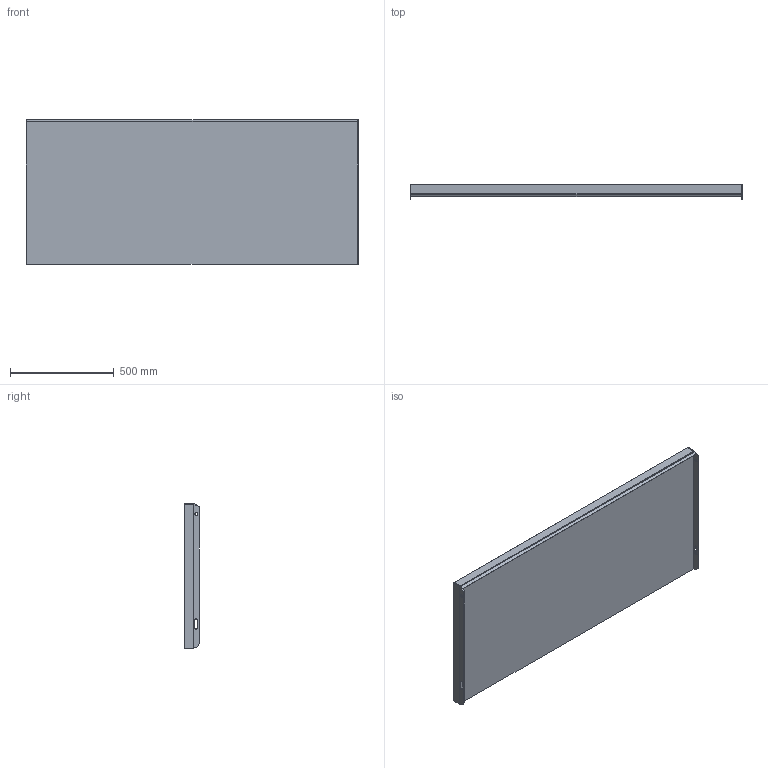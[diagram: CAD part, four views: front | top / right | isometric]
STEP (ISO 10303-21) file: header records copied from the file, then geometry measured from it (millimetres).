
FILE_DESCRIPTION (( 'STEP AP203' ), '1' );
FILE_NAME ('148816071, Plan TH6, 1600x700, vfz.STEP', '2020-10-21T13:25:12', ( '' ), ( '' ), 'SwSTEP 2.0', 'SolidWorks 2019', '' );
FILE_SCHEMA (( 'CONFIG_CONTROL_DESIGN' ));
Length unit declared in the file: millimetre
Products named in the file (4): 148816071, Plan TH6, 1600x700, vfz; SW0000041813; SW0000041386; SW0000041758
Assembly tree (4 placements, depth 2):
  148816071, Plan TH6, 1600x700, vfz
    SW0000041813
    SW0000041386  x2
    SW0000041758
Bounding box: 1600 x 70 x 697 mm (x, y, z)
Volume: 44822220.4 mm3; surface area: 2797456.2 mm2
Topology: 4 solids, 4 shells, 59 faces, 142 edges, 92 vertices
Faces by surface type: plane 45, cylinder 14
Entity records: 1693 total; most frequent: DIRECTION 221, CARTESIAN_POINT 220, ORIENTED_EDGE 206, EDGE_CURVE 103, VECTOR 87, LINE 87, AXIS2_PLACEMENT_3D 67, VERTEX_POINT 66
